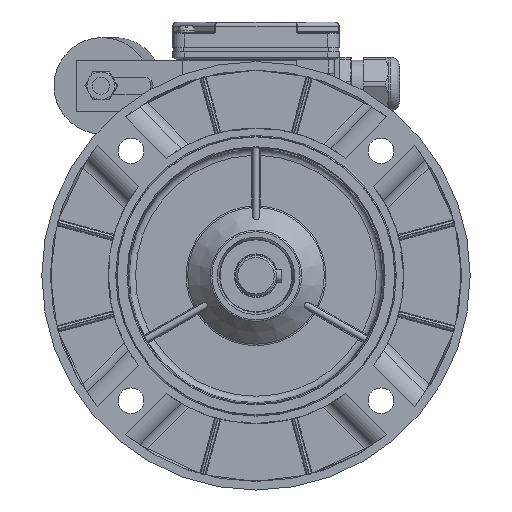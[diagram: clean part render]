
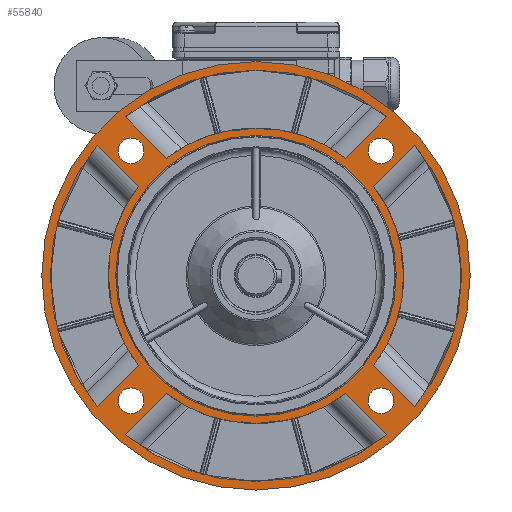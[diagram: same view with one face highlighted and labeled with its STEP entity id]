
A CAD part, left-side view. The second image highlights one B-rep face of the part: STEP entity #55840.
In plain terms, the highlighted planar face has unit normal (-1, 0, 0).
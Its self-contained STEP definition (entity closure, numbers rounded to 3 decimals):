
#4337=LINE('',#79907,#7522);
#4338=LINE('',#79918,#7523);
#4339=LINE('',#79941,#7524);
#4340=LINE('',#79952,#7525);
#4341=LINE('',#79978,#7526);
#4342=LINE('',#79989,#7527);
#4343=LINE('',#80012,#7528);
#4344=LINE('',#80023,#7529);
#7522=VECTOR('',#67503,1000.);
#7523=VECTOR('',#67510,1000.);
#7524=VECTOR('',#67517,1000.);
#7525=VECTOR('',#67524,1000.);
#7526=VECTOR('',#67535,1000.);
#7527=VECTOR('',#67542,1000.);
#7528=VECTOR('',#67549,1000.);
#7529=VECTOR('',#67556,1000.);
#15050=ORIENTED_EDGE('',*,*,#24222,.T.);
#15051=ORIENTED_EDGE('',*,*,#24220,.T.);
#15052=ORIENTED_EDGE('',*,*,#24219,.T.);
#15053=ORIENTED_EDGE('',*,*,#24216,.T.);
#15054=ORIENTED_EDGE('',*,*,#24214,.T.);
#15055=ORIENTED_EDGE('',*,*,#24212,.T.);
#15056=ORIENTED_EDGE('',*,*,#24211,.T.);
#15057=ORIENTED_EDGE('',*,*,#24208,.T.);
#15058=ORIENTED_EDGE('',*,*,#24227,.F.);
#15059=ORIENTED_EDGE('',*,*,#24228,.F.);
#15060=ORIENTED_EDGE('',*,*,#24229,.F.);
#15061=ORIENTED_EDGE('',*,*,#24230,.F.);
#15062=ORIENTED_EDGE('',*,*,#24206,.T.);
#15063=ORIENTED_EDGE('',*,*,#24231,.T.);
#15064=ORIENTED_EDGE('',*,*,#24205,.T.);
#15065=ORIENTED_EDGE('',*,*,#24203,.T.);
#15066=ORIENTED_EDGE('',*,*,#24202,.T.);
#15067=ORIENTED_EDGE('',*,*,#24199,.T.);
#15068=ORIENTED_EDGE('',*,*,#24197,.T.);
#15069=ORIENTED_EDGE('',*,*,#24195,.T.);
#15070=ORIENTED_EDGE('',*,*,#24194,.T.);
#15071=ORIENTED_EDGE('',*,*,#24191,.T.);
#24191=EDGE_CURVE('',#29328,#29327,#32290,.T.);
#24194=EDGE_CURVE('',#29329,#29328,#4337,.T.);
#24195=EDGE_CURVE('',#29330,#29329,#32291,.T.);
#24197=EDGE_CURVE('',#29327,#29330,#4338,.T.);
#24199=EDGE_CURVE('',#29332,#29331,#32292,.T.);
#24202=EDGE_CURVE('',#29333,#29332,#4339,.T.);
#24203=EDGE_CURVE('',#29334,#29333,#32293,.T.);
#24205=EDGE_CURVE('',#29331,#29334,#4340,.T.);
#24206=EDGE_CURVE('',#29335,#29335,#32294,.F.);
#24208=EDGE_CURVE('',#29337,#29336,#32295,.T.);
#24211=EDGE_CURVE('',#29338,#29337,#4341,.T.);
#24212=EDGE_CURVE('',#29339,#29338,#32296,.T.);
#24214=EDGE_CURVE('',#29336,#29339,#4342,.T.);
#24216=EDGE_CURVE('',#29341,#29340,#32297,.T.);
#24219=EDGE_CURVE('',#29342,#29341,#4343,.T.);
#24220=EDGE_CURVE('',#29343,#29342,#32298,.T.);
#24222=EDGE_CURVE('',#29340,#29343,#4344,.T.);
#24227=EDGE_CURVE('',#29348,#29348,#32299,.T.);
#24228=EDGE_CURVE('',#29349,#29349,#32300,.T.);
#24229=EDGE_CURVE('',#29350,#29350,#32301,.T.);
#24230=EDGE_CURVE('',#29351,#29351,#32302,.T.);
#24231=EDGE_CURVE('',#29352,#29352,#32303,.T.);
#29327=VERTEX_POINT('',#79891);
#29328=VERTEX_POINT('',#79893);
#29329=VERTEX_POINT('',#79906);
#29330=VERTEX_POINT('',#79910);
#29331=VERTEX_POINT('',#79925);
#29332=VERTEX_POINT('',#79927);
#29333=VERTEX_POINT('',#79940);
#29334=VERTEX_POINT('',#79944);
#29335=VERTEX_POINT('',#79955);
#29336=VERTEX_POINT('',#79962);
#29337=VERTEX_POINT('',#79964);
#29338=VERTEX_POINT('',#79977);
#29339=VERTEX_POINT('',#79981);
#29340=VERTEX_POINT('',#79996);
#29341=VERTEX_POINT('',#79998);
#29342=VERTEX_POINT('',#80011);
#29343=VERTEX_POINT('',#80015);
#29348=VERTEX_POINT('',#80035);
#29349=VERTEX_POINT('',#80037);
#29350=VERTEX_POINT('',#80039);
#29351=VERTEX_POINT('',#80041);
#29352=VERTEX_POINT('',#80043);
#32290=CIRCLE('',#59175,96.);
#32291=CIRCLE('',#59178,69.);
#32292=CIRCLE('',#59181,96.);
#32293=CIRCLE('',#59184,69.);
#32294=CIRCLE('',#59187,65.5);
#32295=CIRCLE('',#59189,96.);
#32296=CIRCLE('',#59192,69.);
#32297=CIRCLE('',#59195,96.);
#32298=CIRCLE('',#59198,69.);
#32299=CIRCLE('',#59202,6.);
#32300=CIRCLE('',#59203,6.);
#32301=CIRCLE('',#59204,6.);
#32302=CIRCLE('',#59205,6.);
#32303=CIRCLE('',#59206,100.);
#34488=EDGE_LOOP('',(#15050,#15051,#15052,#15053));
#34489=EDGE_LOOP('',(#15054,#15055,#15056,#15057));
#34490=EDGE_LOOP('',(#15058));
#34491=EDGE_LOOP('',(#15059));
#34492=EDGE_LOOP('',(#15060));
#34493=EDGE_LOOP('',(#15061));
#34494=EDGE_LOOP('',(#15062));
#34495=EDGE_LOOP('',(#15063));
#34496=EDGE_LOOP('',(#15064,#15065,#15066,#15067));
#34497=EDGE_LOOP('',(#15068,#15069,#15070,#15071));
#37314=FACE_BOUND('',#34488,.T.);
#37315=FACE_BOUND('',#34489,.T.);
#37316=FACE_BOUND('',#34490,.T.);
#37317=FACE_BOUND('',#34491,.T.);
#37318=FACE_BOUND('',#34492,.T.);
#37319=FACE_BOUND('',#34493,.T.);
#37320=FACE_BOUND('',#34494,.T.);
#37321=FACE_BOUND('',#34495,.T.);
#37322=FACE_BOUND('',#34496,.T.);
#37323=FACE_BOUND('',#34497,.T.);
#39379=PLANE('',#59201);
#55840=ADVANCED_FACE('',(#37314,#37315,#37316,#37317,#37318,#37319,#37320,
#37321,#37322,#37323),#39379,.T.);
#59175=AXIS2_PLACEMENT_3D('',#79892,#67499,#67500);
#59178=AXIS2_PLACEMENT_3D('',#79909,#67506,#67507);
#59181=AXIS2_PLACEMENT_3D('',#79926,#67513,#67514);
#59184=AXIS2_PLACEMENT_3D('',#79943,#67520,#67521);
#59187=AXIS2_PLACEMENT_3D('',#79954,#67527,#67528);
#59189=AXIS2_PLACEMENT_3D('',#79963,#67531,#67532);
#59192=AXIS2_PLACEMENT_3D('',#79980,#67538,#67539);
#59195=AXIS2_PLACEMENT_3D('',#79997,#67545,#67546);
#59198=AXIS2_PLACEMENT_3D('',#80014,#67552,#67553);
#59201=AXIS2_PLACEMENT_3D('',#80033,#67563,#67564);
#59202=AXIS2_PLACEMENT_3D('',#80034,#67565,#67566);
#59203=AXIS2_PLACEMENT_3D('',#80036,#67567,#67568);
#59204=AXIS2_PLACEMENT_3D('',#80038,#67569,#67570);
#59205=AXIS2_PLACEMENT_3D('',#80040,#67571,#67572);
#59206=AXIS2_PLACEMENT_3D('',#80042,#67573,#67574);
#67499=DIRECTION('',(1.,0.,0.));
#67500=DIRECTION('',(0.,0.,-1.));
#67503=DIRECTION('',(0.,0.707,0.707));
#67506=DIRECTION('',(-1.,0.,0.));
#67507=DIRECTION('',(0.,0.,-1.));
#67510=DIRECTION('',(0.,0.707,-0.707));
#67513=DIRECTION('',(1.,0.,0.));
#67514=DIRECTION('',(0.,0.,1.));
#67517=DIRECTION('',(0.,-0.707,-0.707));
#67520=DIRECTION('',(-1.,0.,0.));
#67521=DIRECTION('',(0.,0.,1.));
#67524=DIRECTION('',(0.,-0.707,0.707));
#67527=DIRECTION('',(-1.,0.,0.));
#67528=DIRECTION('',(0.,0.,-1.));
#67531=DIRECTION('',(1.,0.,0.));
#67532=DIRECTION('',(0.,1.,0.));
#67535=DIRECTION('',(0.,-0.707,0.707));
#67538=DIRECTION('',(-1.,0.,0.));
#67539=DIRECTION('',(0.,1.,0.));
#67542=DIRECTION('',(0.,0.707,0.707));
#67545=DIRECTION('',(1.,0.,0.));
#67546=DIRECTION('',(0.,-1.,0.));
#67549=DIRECTION('',(0.,0.707,-0.707));
#67552=DIRECTION('',(-1.,0.,0.));
#67553=DIRECTION('',(0.,-1.,0.));
#67556=DIRECTION('',(0.,-0.707,-0.707));
#67563=DIRECTION('',(-1.,0.,0.));
#67564=DIRECTION('',(0.,0.,-1.));
#67565=DIRECTION('',(-1.,0.,0.));
#67566=DIRECTION('',(0.,-1.,0.));
#67567=DIRECTION('',(-1.,0.,0.));
#67568=DIRECTION('',(0.,-1.,0.));
#67569=DIRECTION('',(-1.,0.,0.));
#67570=DIRECTION('',(0.,-1.,0.));
#67571=DIRECTION('',(-1.,0.,0.));
#67572=DIRECTION('',(0.,-1.,0.));
#67573=DIRECTION('',(-1.,0.,0.));
#67574=DIRECTION('',(0.,0.,-1.));
#79891=CARTESIAN_POINT('',(-44.3,-60.96,74.161));
#79892=CARTESIAN_POINT('',(-44.3,0.,0.));
#79893=CARTESIAN_POINT('',(-44.3,60.96,74.161));
#79906=CARTESIAN_POINT('',(-44.3,41.741,54.943));
#79907=CARTESIAN_POINT('',(-44.3,60.009,73.211));
#79909=CARTESIAN_POINT('',(-44.3,0.,0.));
#79910=CARTESIAN_POINT('',(-44.3,-41.741,54.943));
#79918=CARTESIAN_POINT('',(-44.3,-40.403,53.605));
#79925=CARTESIAN_POINT('',(-44.3,60.96,-74.161));
#79926=CARTESIAN_POINT('',(-44.3,0.,0.));
#79927=CARTESIAN_POINT('',(-44.3,-60.96,-74.161));
#79940=CARTESIAN_POINT('',(-44.3,-41.741,-54.943));
#79941=CARTESIAN_POINT('',(-44.3,-60.009,-73.211));
#79943=CARTESIAN_POINT('',(-44.3,0.,0.));
#79944=CARTESIAN_POINT('',(-44.3,41.741,-54.943));
#79952=CARTESIAN_POINT('',(-44.3,40.403,-53.605));
#79954=CARTESIAN_POINT('',(-44.3,0.,0.));
#79955=CARTESIAN_POINT('',(-44.3,0.,-65.5));
#79962=CARTESIAN_POINT('',(-44.3,-74.161,-60.96));
#79963=CARTESIAN_POINT('',(-44.3,0.,0.));
#79964=CARTESIAN_POINT('',(-44.3,-74.161,60.96));
#79977=CARTESIAN_POINT('',(-44.3,-54.943,41.741));
#79978=CARTESIAN_POINT('',(-44.3,-73.211,60.009));
#79980=CARTESIAN_POINT('',(-44.3,0.,0.));
#79981=CARTESIAN_POINT('',(-44.3,-54.943,-41.741));
#79989=CARTESIAN_POINT('',(-44.3,-53.605,-40.403));
#79996=CARTESIAN_POINT('',(-44.3,74.161,60.96));
#79997=CARTESIAN_POINT('',(-44.3,0.,0.));
#79998=CARTESIAN_POINT('',(-44.3,74.161,-60.96));
#80011=CARTESIAN_POINT('',(-44.3,54.943,-41.741));
#80012=CARTESIAN_POINT('',(-44.3,73.211,-60.009));
#80014=CARTESIAN_POINT('',(-44.3,0.,0.));
#80015=CARTESIAN_POINT('',(-44.3,54.943,41.741));
#80023=CARTESIAN_POINT('',(-44.3,53.605,40.403));
#80033=CARTESIAN_POINT('',(-44.3,0.,-65.));
#80034=CARTESIAN_POINT('',(-44.3,58.336,-58.336));
#80035=CARTESIAN_POINT('',(-44.3,52.336,-58.336));
#80036=CARTESIAN_POINT('',(-44.3,-58.336,-58.336));
#80037=CARTESIAN_POINT('',(-44.3,-64.336,-58.336));
#80038=CARTESIAN_POINT('',(-44.3,-58.336,58.336));
#80039=CARTESIAN_POINT('',(-44.3,-64.336,58.336));
#80040=CARTESIAN_POINT('',(-44.3,58.336,58.336));
#80041=CARTESIAN_POINT('',(-44.3,52.336,58.336));
#80042=CARTESIAN_POINT('',(-44.3,0.,0.));
#80043=CARTESIAN_POINT('',(-44.3,0.,-100.));
